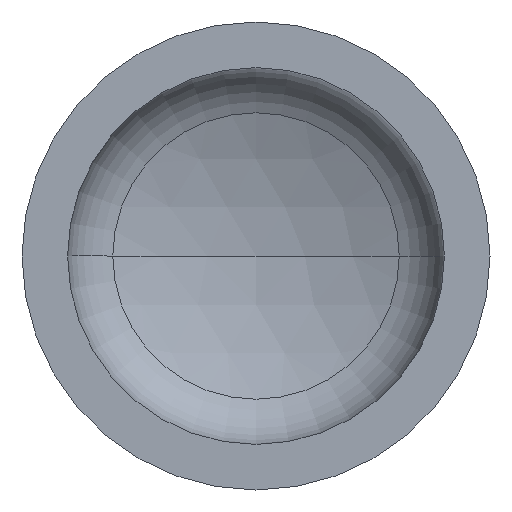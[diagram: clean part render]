
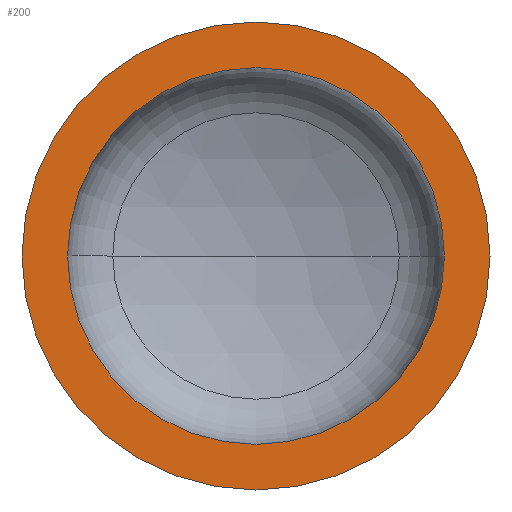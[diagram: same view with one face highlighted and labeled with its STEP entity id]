
A CAD part, front view. The second image highlights one B-rep face of the part: STEP entity #200.
In plain terms, the highlighted planar face has unit normal (0, -1, 0).
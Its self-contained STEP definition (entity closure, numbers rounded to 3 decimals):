
#3 = AXIS2_PLACEMENT_3D ( 'NONE', #120, #310, #178 ) ;
#13 = EDGE_LOOP ( 'NONE', ( #79, #32 ) ) ;
#27 = AXIS2_PLACEMENT_3D ( 'NONE', #333, #196, #280 ) ;
#32 = ORIENTED_EDGE ( 'NONE', *, *, #126, .T. ) ;
#46 = VERTEX_POINT ( 'NONE', #295 ) ;
#49 = CARTESIAN_POINT ( 'NONE',  ( 0., 0., 0. ) ) ;
#51 = AXIS2_PLACEMENT_3D ( 'NONE', #209, #281, #279 ) ;
#53 = EDGE_LOOP ( 'NONE', ( #278, #125 ) ) ;
#79 = ORIENTED_EDGE ( 'NONE', *, *, #385, .T. ) ;
#87 = AXIS2_PLACEMENT_3D ( 'NONE', #149, #367, #368 ) ;
#96 = AXIS2_PLACEMENT_3D ( 'NONE', #49, #339, #353 ) ;
#106 = VERTEX_POINT ( 'NONE', #230 ) ;
#120 = CARTESIAN_POINT ( 'NONE',  ( 0., 0., 0. ) ) ;
#125 = ORIENTED_EDGE ( 'NONE', *, *, #335, .F. ) ;
#126 = EDGE_CURVE ( 'NONE', #138, #46, #216, .T. ) ;
#127 = EDGE_CURVE ( 'NONE', #350, #106, #160, .T. ) ;
#138 = VERTEX_POINT ( 'NONE', #205 ) ;
#149 = CARTESIAN_POINT ( 'NONE',  ( 0., 0., 0. ) ) ;
#160 = CIRCLE ( 'NONE', #87, 322. ) ;
#178 = DIRECTION ( 'NONE',  ( 1., 0., 0. ) ) ;
#190 = FACE_BOUND ( 'NONE', #53, .T. ) ;
#196 = DIRECTION ( 'NONE',  ( 0., -1., 0. ) ) ;
#200 = ADVANCED_FACE ( 'NONE', ( #190, #369 ), #256, .F. ) ;
#205 = CARTESIAN_POINT ( 'NONE',  ( -400., 0., 0. ) ) ;
#209 = CARTESIAN_POINT ( 'NONE',  ( -400., 0., 0. ) ) ;
#216 = CIRCLE ( 'NONE', #96, 400. ) ;
#230 = CARTESIAN_POINT ( 'NONE',  ( -322., 0., 0. ) ) ;
#243 = CARTESIAN_POINT ( 'NONE',  ( 322., 0., 0. ) ) ;
#256 = PLANE ( 'NONE',  #51 ) ;
#278 = ORIENTED_EDGE ( 'NONE', *, *, #127, .F. ) ;
#279 = DIRECTION ( 'NONE',  ( -1., 0., 0. ) ) ;
#280 = DIRECTION ( 'NONE',  ( 1., 0., 0. ) ) ;
#281 = DIRECTION ( 'NONE',  ( 0., 1., 0. ) ) ;
#295 = CARTESIAN_POINT ( 'NONE',  ( 400., 0., 0. ) ) ;
#310 = DIRECTION ( 'NONE',  ( 0., -1., 0. ) ) ;
#326 = CIRCLE ( 'NONE', #3, 400. ) ;
#333 = CARTESIAN_POINT ( 'NONE',  ( 0., 0., 0. ) ) ;
#335 = EDGE_CURVE ( 'NONE', #106, #350, #410, .T. ) ;
#339 = DIRECTION ( 'NONE',  ( 0., -1., 0. ) ) ;
#350 = VERTEX_POINT ( 'NONE', #243 ) ;
#353 = DIRECTION ( 'NONE',  ( 1., 0., 0. ) ) ;
#367 = DIRECTION ( 'NONE',  ( 0., -1., 0. ) ) ;
#368 = DIRECTION ( 'NONE',  ( 1., 0., 0. ) ) ;
#369 = FACE_OUTER_BOUND ( 'NONE', #13, .T. ) ;
#385 = EDGE_CURVE ( 'NONE', #46, #138, #326, .T. ) ;
#410 = CIRCLE ( 'NONE', #27, 322. ) ;
